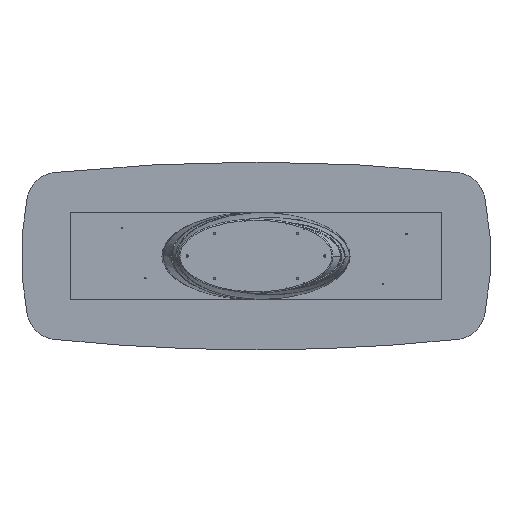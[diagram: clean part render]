
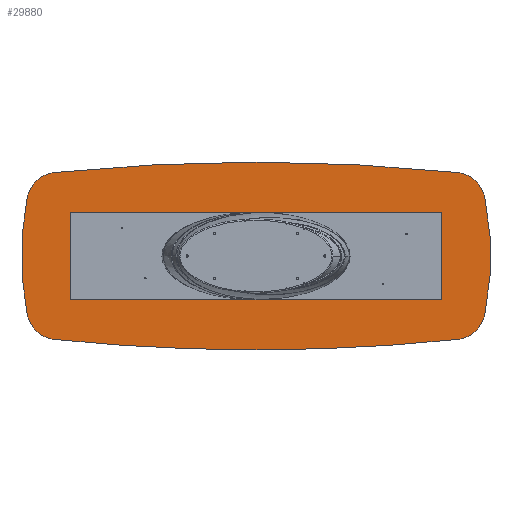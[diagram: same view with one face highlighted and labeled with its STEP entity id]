
A CAD part, front view. The second image highlights one B-rep face of the part: STEP entity #29880.
In plain terms, the highlighted planar face has unit normal (0, -1, 0).
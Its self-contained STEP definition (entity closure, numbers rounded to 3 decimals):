
#306 = CIRCLE ( 'NONE', #10463, 200. ) ;
#597 = CARTESIAN_POINT ( 'NONE',  ( -1462.835, 50., -373.961 ) ) ;
#728 = CARTESIAN_POINT ( 'NONE',  ( -1266.747, 50., -334.597 ) ) ;
#1198 = EDGE_CURVE ( 'NONE', #4158, #26514, #9333, .T. ) ;
#1278 = CARTESIAN_POINT ( 'NONE',  ( -1287.344, 50., -533.533 ) ) ;
#1363 = DIRECTION ( 'NONE',  ( 0., 1., 0. ) ) ;
#1547 = CARTESIAN_POINT ( 'NONE',  ( 1266.747, 50., 334.597 ) ) ;
#2120 = AXIS2_PLACEMENT_3D ( 'NONE', #12333, #21162, #17970 ) ;
#2164 = AXIS2_PLACEMENT_3D ( 'NONE', #34682, #30598, #5065 ) ;
#2186 = ORIENTED_EDGE ( 'NONE', *, *, #20077, .F. ) ;
#2547 = CARTESIAN_POINT ( 'NONE',  ( 0., 50., -11900. ) ) ;
#3348 = VERTEX_POINT ( 'NONE', #24661 ) ;
#3734 = AXIS2_PLACEMENT_3D ( 'NONE', #728, #9183, #9369 ) ;
#4158 = VERTEX_POINT ( 'NONE', #12211 ) ;
#4545 = DIRECTION ( 'NONE',  ( 0., 0., 1. ) ) ;
#5065 = DIRECTION ( 'NONE',  ( 0., 0., 1. ) ) ;
#5402 = CIRCLE ( 'NONE', #29478, 1900. ) ;
#5485 = CARTESIAN_POINT ( 'NONE',  ( 1266.747, 50., -334.597 ) ) ;
#6717 = EDGE_CURVE ( 'NONE', #3348, #19353, #28468, .T. ) ;
#7790 = AXIS2_PLACEMENT_3D ( 'NONE', #30199, #33033, #30019 ) ;
#8412 = AXIS2_PLACEMENT_3D ( 'NONE', #1547, #1363, #4545 ) ;
#8536 = EDGE_CURVE ( 'NONE', #36315, #10253, #306, .T. ) ;
#9183 = DIRECTION ( 'NONE',  ( 0., 1., 0. ) ) ;
#9333 = CIRCLE ( 'NONE', #2120, 12500. ) ;
#9364 = CIRCLE ( 'NONE', #2164, 1900. ) ;
#9369 = DIRECTION ( 'NONE',  ( 0., 0., 1. ) ) ;
#10253 = VERTEX_POINT ( 'NONE', #10887 ) ;
#10325 = CIRCLE ( 'NONE', #18131, 12500. ) ;
#10463 = AXIS2_PLACEMENT_3D ( 'NONE', #5485, #25382, #13545 ) ;
#10887 = CARTESIAN_POINT ( 'NONE',  ( 1287.344, 50., -533.533 ) ) ;
#11500 = CARTESIAN_POINT ( 'NONE',  ( -400., 50., 0. ) ) ;
#12211 = CARTESIAN_POINT ( 'NONE',  ( 0., 50., -600. ) ) ;
#12333 = CARTESIAN_POINT ( 'NONE',  ( 0., 50., 11900. ) ) ;
#12744 = PLANE ( 'NONE',  #7790 ) ;
#12879 = ORIENTED_EDGE ( 'NONE', *, *, #35173, .F. ) ;
#13201 = ORIENTED_EDGE ( 'NONE', *, *, #6717, .F. ) ;
#13247 = ORIENTED_EDGE ( 'NONE', *, *, #8536, .F. ) ;
#13545 = DIRECTION ( 'NONE',  ( 0., 0., 1. ) ) ;
#15484 = EDGE_CURVE ( 'NONE', #10253, #4158, #17131, .T. ) ;
#15516 = CARTESIAN_POINT ( 'NONE',  ( -1266.747, 50., 334.597 ) ) ;
#15801 = VERTEX_POINT ( 'NONE', #33109 ) ;
#16319 = CIRCLE ( 'NONE', #3734, 200. ) ;
#16714 = ORIENTED_EDGE ( 'NONE', *, *, #26198, .F. ) ;
#16791 = CIRCLE ( 'NONE', #8412, 200. ) ;
#17094 = VERTEX_POINT ( 'NONE', #597 ) ;
#17131 = CIRCLE ( 'NONE', #27319, 12500. ) ;
#17970 = DIRECTION ( 'NONE',  ( 0., 0., -1. ) ) ;
#18075 = EDGE_LOOP ( 'NONE', ( #13201, #2186, #16714, #27704, #33254, #13247, #31716, #12879, #21456 ) ) ;
#18131 = AXIS2_PLACEMENT_3D ( 'NONE', #2547, #30705, #37101 ) ;
#18468 = DIRECTION ( 'NONE',  ( 0., 1., 0. ) ) ;
#19353 = VERTEX_POINT ( 'NONE', #34227 ) ;
#20077 = EDGE_CURVE ( 'NONE', #17094, #3348, #9364, .T. ) ;
#21162 = DIRECTION ( 'NONE',  ( 0., 1., 0. ) ) ;
#21456 = ORIENTED_EDGE ( 'NONE', *, *, #24293, .F. ) ;
#21473 = DIRECTION ( 'NONE',  ( 0., 0., -1. ) ) ;
#23797 = DIRECTION ( 'NONE',  ( 0., 0., 1. ) ) ;
#24293 = EDGE_CURVE ( 'NONE', #19353, #25414, #10325, .T. ) ;
#24661 = CARTESIAN_POINT ( 'NONE',  ( -1462.835, 50., 373.961 ) ) ;
#25382 = DIRECTION ( 'NONE',  ( 0., 1., 0. ) ) ;
#25397 = DIRECTION ( 'NONE',  ( 0., 1., 0. ) ) ;
#25414 = VERTEX_POINT ( 'NONE', #27707 ) ;
#26198 = EDGE_CURVE ( 'NONE', #26514, #17094, #16319, .T. ) ;
#26514 = VERTEX_POINT ( 'NONE', #1278 ) ;
#27319 = AXIS2_PLACEMENT_3D ( 'NONE', #32931, #18468, #21473 ) ;
#27704 = ORIENTED_EDGE ( 'NONE', *, *, #1198, .F. ) ;
#27707 = CARTESIAN_POINT ( 'NONE',  ( 1287.344, 50., 533.533 ) ) ;
#28212 = DIRECTION ( 'NONE',  ( 0., 0., -1. ) ) ;
#28468 = CIRCLE ( 'NONE', #36870, 200. ) ;
#29478 = AXIS2_PLACEMENT_3D ( 'NONE', #11500, #25397, #28212 ) ;
#29608 = DIRECTION ( 'NONE',  ( 0., 1., 0. ) ) ;
#29880 = ADVANCED_FACE ( 'NONE', ( #33210 ), #12744, .F. ) ;
#30019 = DIRECTION ( 'NONE',  ( 0., 0., 1. ) ) ;
#30199 = CARTESIAN_POINT ( 'NONE',  ( -633.373, 50., -5782.702 ) ) ;
#30598 = DIRECTION ( 'NONE',  ( 0., 1., 0. ) ) ;
#30705 = DIRECTION ( 'NONE',  ( 0., 1., 0. ) ) ;
#31716 = ORIENTED_EDGE ( 'NONE', *, *, #36606, .F. ) ;
#32931 = CARTESIAN_POINT ( 'NONE',  ( 0., 50., 11900. ) ) ;
#33033 = DIRECTION ( 'NONE',  ( 0., 1., 0. ) ) ;
#33109 = CARTESIAN_POINT ( 'NONE',  ( 1462.835, 50., 373.961 ) ) ;
#33210 = FACE_OUTER_BOUND ( 'NONE', #18075, .T. ) ;
#33254 = ORIENTED_EDGE ( 'NONE', *, *, #15484, .F. ) ;
#34227 = CARTESIAN_POINT ( 'NONE',  ( -1287.344, 50., 533.533 ) ) ;
#34605 = CARTESIAN_POINT ( 'NONE',  ( 1462.835, 50., -373.961 ) ) ;
#34682 = CARTESIAN_POINT ( 'NONE',  ( 400., 50., 0. ) ) ;
#35173 = EDGE_CURVE ( 'NONE', #25414, #15801, #16791, .T. ) ;
#36315 = VERTEX_POINT ( 'NONE', #34605 ) ;
#36606 = EDGE_CURVE ( 'NONE', #15801, #36315, #5402, .T. ) ;
#36870 = AXIS2_PLACEMENT_3D ( 'NONE', #15516, #29608, #23797 ) ;
#37101 = DIRECTION ( 'NONE',  ( 0., 0., 1. ) ) ;
